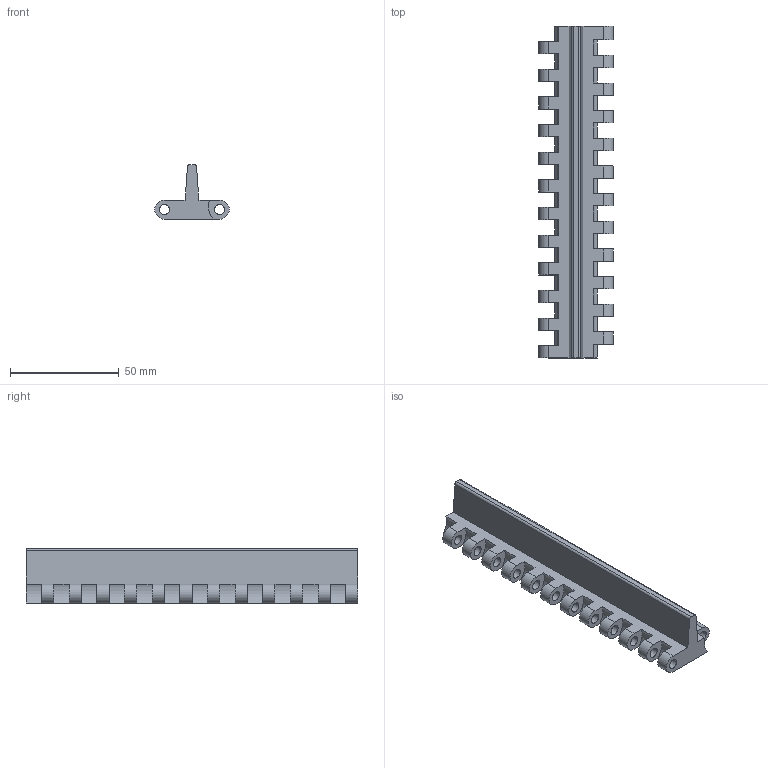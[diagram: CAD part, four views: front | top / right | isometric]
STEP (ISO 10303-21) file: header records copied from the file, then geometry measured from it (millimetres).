
FILE_DESCRIPTION(('CATIA V5 STEP Exchange'),'2;1');
FILE_NAME('C:\Users\ALI OZGUN\Desktop\alhan\TESLIMEDILEN3\939B01P01-25.stp','2017-09-21T11:52:27+00:00',('none'),('none'),'CATIA Version 5 Release 21 GA (IN-10)','CATIA V5 STEP AP203','none');
FILE_SCHEMA(('CONFIG_CONTROL_DESIGN'));
Length unit declared in the file: millimetre
Products named in the file (1): 939B01P01-25
Bounding box: 34.2 x 152.4 x 25 mm (x, y, z)
Volume: 31764.4 mm3; surface area: 22550.4 mm2
Topology: 1 solids, 1 shells, 207 faces, 582 edges, 388 vertices
Faces by surface type: cylinder 108, plane 99
Entity records: 6119 total; most frequent: ORIENTED_EDGE 1164, CARTESIAN_POINT 1067, DIRECTION 774, EDGE_CURVE 582, VERTEX_POINT 388, VECTOR 366, LINE 366, AXIS2_PLACEMENT_3D 313
